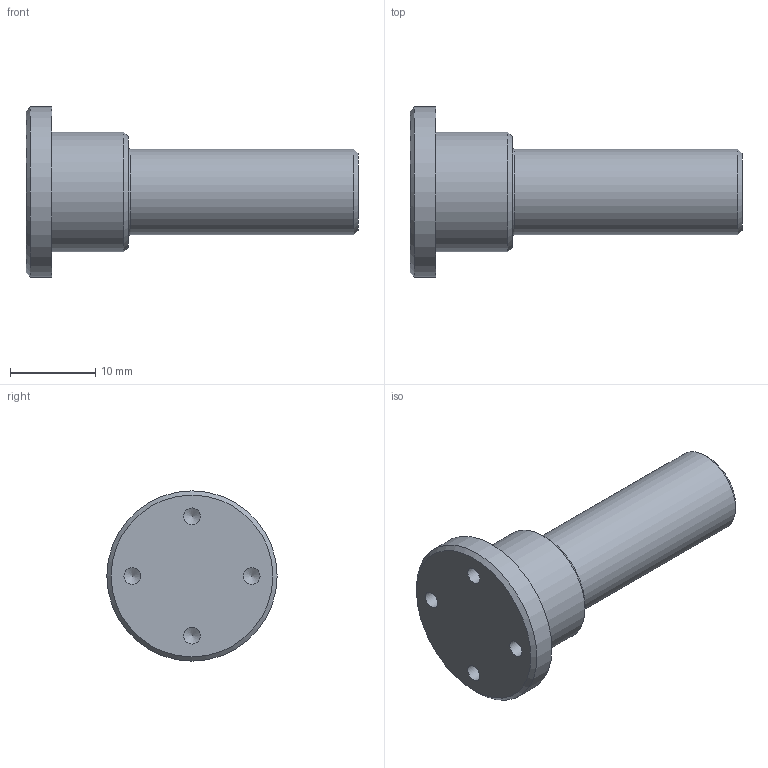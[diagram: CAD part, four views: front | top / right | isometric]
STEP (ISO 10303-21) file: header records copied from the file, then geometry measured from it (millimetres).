
FILE_DESCRIPTION(/* description */ (''),/* implementation_level */ '2;1');
FILE_NAME(/* name */ '',/* time_stamp */ '2026-04-27T11:22:50+09:00',/* author */ ('jhkim'),/* organization */ (''),/* preprocessor_version */ 'ST-DEVELOPER v20.1',/* originating_system */ 'Autodesk Inventor 2027',/* authorisation */ '');
FILE_SCHEMA (('AUTOMOTIVE_DESIGN { 1 0 10303 214 3 1 1 }'));
Length unit declared in the file: millimetre
Products named in the file (1): 유성 축
Bounding box: 39 x 20 x 20 mm (x, y, z)
Volume: 4323.2 mm3; surface area: 2155.5 mm2
Topology: 1 solids, 1 shells, 22 faces, 49 edges, 31 vertices
Faces by surface type: cone 9, cylinder 8, plane 4, torus 1
Full cylindrical faces by diameter (mm): 2 x4, 3.242 x1, 10 x1, 14 x1, 20 x1
Entity records: 638 total; most frequent: DIRECTION 117, CARTESIAN_POINT 98, ORIENTED_EDGE 88, AXIS2_PLACEMENT_3D 50, EDGE_CURVE 44, VERTEX_POINT 31, EDGE_LOOP 29, CIRCLE 27
